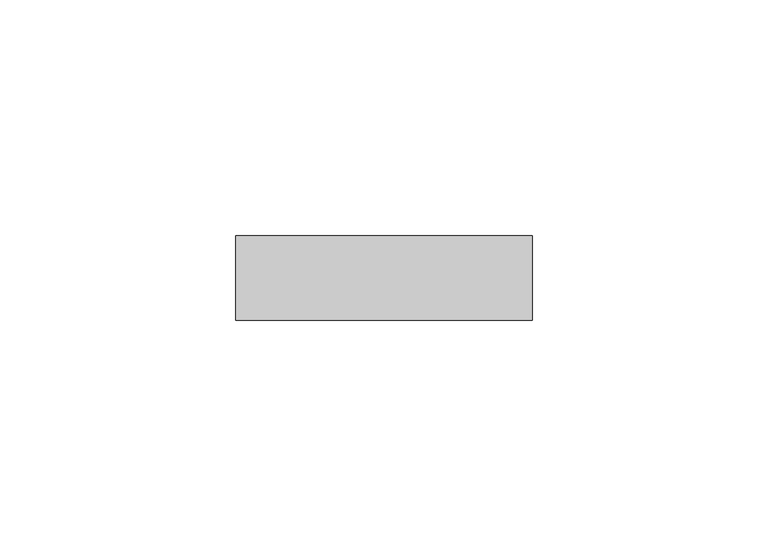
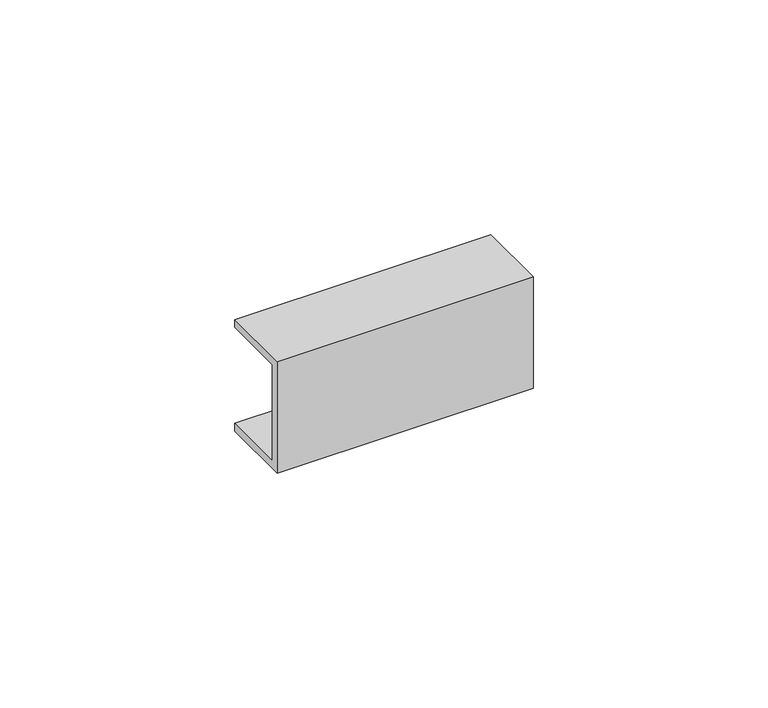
"""IFC4 building model written with IfcOpenShell, lengths in millimetres: proxy geometry, Соединитель_КМС : Соединитель КМС 25х16."""

from ifc_helpers import new_model, si_unit, frame, origin, place, context, project, spatial, polyline, outline, extrude, source, transform, mapped, element, save


def generic_models_aed9c40e(model_context):
    return source(origin(), model_context, "Body", "SweptSolid", [
        extrude(outline(polyline([(-18.0, 42.0), (0.0, 42.0), (0.0, 40.0), (-16.0, 40.0), (-16.0, 15.0), (0.0, 15.0), (0.0, 13.0), (-18.0, 13.0), (-18.0, 42.0)])), frame((0.0, 0.0, 0.0), z_axis=(1.0, 0.0, 0.0), x_axis=(0.0, 1.0, 0.0)), (0.0, 0.0, 1.0), 63.0),
    ])


if __name__ == "__main__":
    model = new_model("IFC4")
    model_context = context("Model", 3, world=origin())
    ifc_project = project(units=[si_unit("LENGTHUNIT", "METRE", prefix="MILLI")], contexts=[model_context])
    site = spatial("IfcSite", under=ifc_project)
    building = spatial("IfcBuilding", under=site)
    placement = place(None, origin())
    generic_models_shape = generic_models_aed9c40e(model_context)
    element("IfcBuildingElementProxy", 1, Name="Соединитель_КМС : Соединитель КМС 25х16", ObjectType="Соединитель_КМС : Соединитель КМС 25х16", at=placement, inside=building, context=model_context, shape_type="MappedRepresentation", body=[
        mapped(generic_models_shape, transform((0.0, 0.0, 0.0), x_axis=(1.0, 0.0, 0.0), y_axis=(0.0, 1.0, 0.0), z_axis=(0.0, 0.0, 1.0))),
    ])
    save(model, "model.ifc")
